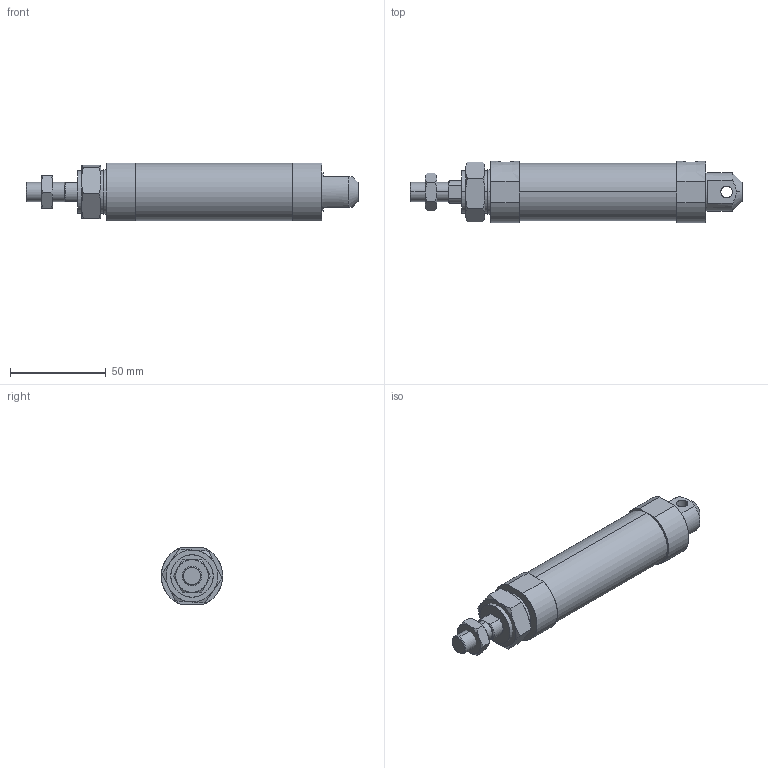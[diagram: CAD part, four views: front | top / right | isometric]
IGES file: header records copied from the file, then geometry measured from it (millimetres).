
Start section: SolidWorks IGES file using analytic representation for surfaces
Global section: file name: C:\Users\Toshiba\Desktop\J#2-25-50-C.IGS; native system: SolidWorks 2014; preprocessor: SolidWorks 2014; author: Toshiba; date: 160308.151100; units: millimetre
Bounding box: 173 x 32 x 30 mm (x, y, z)
Surface area: 19453.6 mm2 (no closed solid volume)
Topology: 0 solids, 0 shells, 96 faces, 1824 edges, 1824 vertices
Faces by surface type: bspline 64, revolution 32
